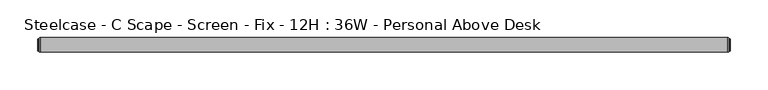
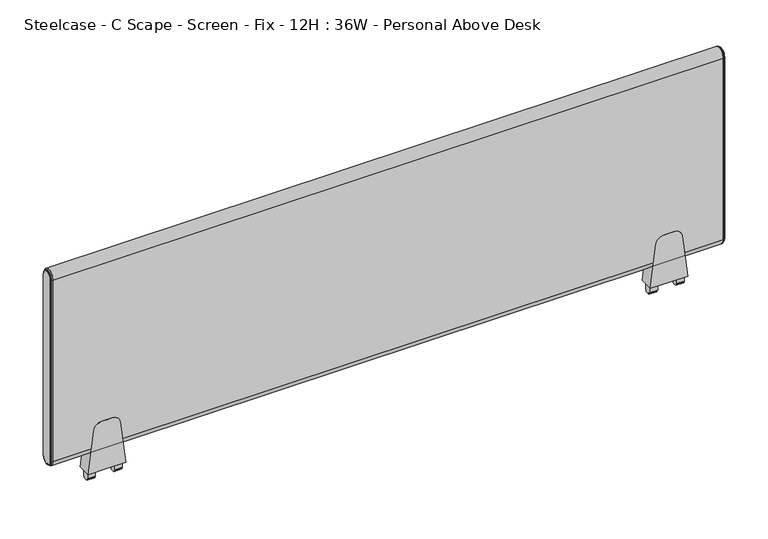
"""IFC4 building model written with IfcOpenShell, lengths in millimetres: furniture geometry, Steelcase - C Scape - Screen - Fix - 12H : 36W - Personal Above Desk."""

from ifc_helpers import new_model, si_unit, point, frame, frame_2d, origin, place, context, project, spatial, polyline, circle_curve, ellipse_curve, trimmed, segment, composite_curve, outline, extrude, source, transform, mapped, element, save
from ifc_brep_helpers import plane_surface, cylinder_surface, revolved_surface, advanced_brep


def steelcase_c_scape_screen_fix_12h_36w_personal_above_desk_3626d083(model_context):
    return source(origin(), model_context, "Body", "SolidModel", [
        extrude(outline(composite_curve([segment(polyline([(723.811112, 101.4730434), (784.1362421, 94.0661495)]), True, "CONTINUOUS"), segment(trimmed(circle_curve(frame_2d((782.8143718, 83.300233)), 10.8467645), [point((784.1362421, 94.0661495))], [point((793.6611362, 83.300233))], False, "CARTESIAN"), True, "CONTINUOUS"), segment(polyline([(793.6611362, 83.300233), (793.6611362, 76.2001674), (793.6611362, 69.1001018)]), True, "CONTINUOUS"), segment(trimmed(circle_curve(frame_2d((782.8143718, 69.1001018)), 10.8467645), [point((793.6611362, 69.1001018))], [point((784.1362421, 58.3341853))], False, "CARTESIAN"), True, "CONTINUOUS"), segment(polyline([(784.1362421, 58.3341853), (723.811112, 50.9272915), (723.811112, 76.2001674), (723.811112, 101.4730434)]), True, "CONTINUOUS")], self_intersect=False)), frame((0.0, -9.525, 0.0), z_axis=(0.0, 1.0, 0.0), x_axis=(0.0, 0.0, 1.0)), (0.0, 0.0, 1.0), 19.05),
        extrude(outline(polyline([(4.5465975, 723.811112), (4.5465975, 713.9051033), (4.0139265, 713.0186748), (2.9972008, 713.0186748), (2.9972008, 710.7834188), (0.0, 710.692), (-2.9972008, 710.7834188), (-2.9972008, 713.0186748), (-4.0139265, 713.0186748), (-4.5465975, 713.9051033), (-4.5465975, 723.811112), (0.0, 723.811112), (4.5465975, 723.811112)])), frame((88.9267162, 0.0, 0.0), z_axis=(1.0, 0.0, 0.0), x_axis=(0.0, 1.0, 0.0)), (0.0, 0.0, 1.0), 10.7813187),
        extrude(outline(polyline([(4.5465975, 723.811112), (4.5465975, 713.9051033), (4.0139265, 713.0186748), (2.9972008, 713.0186748), (2.9972008, 710.7834188), (0.0, 710.692), (-2.9972008, 710.7834188), (-2.9972008, 713.0186748), (-4.0139265, 713.0186748), (-4.5465975, 713.9051033), (-4.5465975, 723.811112), (0.0, 723.811112), (4.5465975, 723.811112)])), frame((52.6923, 0.0, 0.0), z_axis=(1.0, 0.0, 0.0), x_axis=(0.0, 1.0, 0.0)), (0.0, 0.0, 1.0), 10.7813187),
        extrude(outline(composite_curve([segment(polyline([(723.811112, 862.7107132), (784.1362421, 855.3038193)]), True, "CONTINUOUS"), segment(trimmed(circle_curve(frame_2d((782.8143718, 844.5379028)), 10.8467645), [point((784.1362421, 855.3038193))], [point((793.6611362, 844.5379028))], False, "CARTESIAN"), True, "CONTINUOUS"), segment(polyline([(793.6611362, 844.5379028), (793.6611362, 837.4378372), (793.6611362, 830.3377716)]), True, "CONTINUOUS"), segment(trimmed(circle_curve(frame_2d((782.8143718, 830.3377716)), 10.8467645), [point((793.6611362, 830.3377716))], [point((784.1362421, 819.5718551))], False, "CARTESIAN"), True, "CONTINUOUS"), segment(polyline([(784.1362421, 819.5718551), (723.811112, 812.1649612), (723.811112, 837.4378372), (723.811112, 862.7107132)]), True, "CONTINUOUS")], self_intersect=False)), frame((0.0, -9.525, 0.0), z_axis=(0.0, 1.0, 0.0), x_axis=(0.0, 0.0, 1.0)), (0.0, 0.0, 1.0), 19.05),
        extrude(outline(polyline([(4.5465975, 723.811112), (4.5465975, 713.9051033), (4.0139265, 713.0186748), (2.9972008, 713.0186748), (2.9972008, 710.7834188), (0.0, 710.692), (-2.9972008, 710.7834188), (-2.9972008, 713.0186748), (-4.0139265, 713.0186748), (-4.5465975, 713.9051033), (-4.5465975, 723.811112), (0.0, 723.811112), (4.5465975, 723.811112)])), frame((850.164386, 0.0, 0.0), z_axis=(1.0, 0.0, 0.0), x_axis=(0.0, 1.0, 0.0)), (0.0, 0.0, 1.0), 10.7813187),
        extrude(outline(polyline([(4.5465975, 723.811112), (4.5465975, 713.9051033), (4.0139265, 713.0186748), (2.9972008, 713.0186748), (2.9972008, 710.7834188), (0.0, 710.692), (-2.9972008, 710.7834188), (-2.9972008, 713.0186748), (-4.0139265, 713.0186748), (-4.5465975, 713.9051033), (-4.5465975, 723.811112), (0.0, 723.811112), (4.5465975, 723.811112)])), frame((813.9299698, 0.0, 0.0), z_axis=(1.0, 0.0, 0.0), x_axis=(0.0, 1.0, 0.0)), (0.0, 0.0, 1.0), 10.7813187),
        advanced_brep(
        [(910.8486613, -9.525, 1019.175), (910.8486613, 9.525, 1019.175), (910.8486613, 9.525, 758.825), (910.8486613, -9.525, 758.825), (913.6426613, 7.4929583, 1019.175), (913.6426613, -7.4929583, 1019.175), (913.6426613, -7.4929583, 758.825), (913.6426613, 7.4929583, 758.825), (913.1346545, -8.0009651, 1019.175), (913.1346545, 8.0009651, 1019.175), (911.8646613, 8.0009651, 1019.175), (911.8646613, -8.0009651, 1019.175), (911.8646613, -8.8204932, 1019.175), (911.8646613, 8.8204932, 1019.175), (911.8646613, -8.0009651, 758.825), (913.1346545, -8.0009651, 758.825), (911.8646613, -8.8204932, 758.825), (911.8646613, 8.0009651, 758.825), (913.1346545, 8.0009651, 758.825), (911.8646613, 8.8204932, 758.825)],
        [
            (0, 1, circle_curve(frame((910.8486613, 0.0, 1019.175), z_axis=(-1.0, 0.0, 0.0), x_axis=(0.0, 1.0, 0.0)), 9.525)),
            (1, 2),
            (2, 3, circle_curve(frame((910.8486613, 0.0, 758.825), z_axis=(-1.0, 0.0, 0.0), x_axis=(0.0, -1.0, 0.0)), 9.525)),
            (3, 0),
            (4, 5, circle_curve(frame((913.6426613, 0.0, 1019.175), z_axis=(1.0, 0.0, 0.0), x_axis=(0.0, 1.0, 0.0)), 7.4929583)),
            (5, 6),
            (6, 7, circle_curve(frame((913.6426613, 0.0, 758.825), z_axis=(1.0, 0.0, 0.0), x_axis=(0.0, -1.0, 0.0)), 7.4929583)),
            (7, 4),
            (8, 9, circle_curve(frame((913.1346545, 0.0, 1019.175), z_axis=(-1.0, 0.0, 0.0), x_axis=(0.0, 1.0, 0.0)), 8.0009651)),
            (9, 10),
            (10, 11, circle_curve(frame((911.8646613, 0.0, 1019.175), z_axis=(1.0, 0.0, 0.0), x_axis=(0.0, 1.0, 0.0)), 8.0009651)),
            (11, 8),
            (8, 5, circle_curve(frame((913.1346545, -7.4929583, 1019.175), z_axis=(0.0, 0.0, 1.0), x_axis=(0.0, -1.0, 0.0)), 0.5080068)),
            (4, 9, circle_curve(frame((913.1346545, 7.4929583, 1019.175), z_axis=(0.0, 0.0, 1.0), x_axis=(0.0, 1.0, 0.0)), 0.5080068)),
            (12, 13, circle_curve(frame((911.8646613, 0.0, 1019.175), z_axis=(-1.0, 0.0, 0.0), x_axis=(0.0, 1.0, 0.0)), 8.8204932)),
            (13, 1, circle_curve(frame((910.7806211, 8.3420139, 1019.175), z_axis=(0.0, 0.0, 1.0), x_axis=(0.0, 1.0, 0.0)), 1.1849411)),
            (0, 12, circle_curve(frame((910.7806211, -8.3420139, 1019.175), z_axis=(0.0, 0.0, 1.0), x_axis=(0.0, -1.0, 0.0)), 1.1849411)),
            (11, 14),
            (14, 15),
            (15, 8),
            (15, 6, circle_curve(frame((913.1346545, -7.4929583, 758.825), z_axis=(0.0, 0.0, 1.0), x_axis=(0.0, -1.0, 0.0)), 0.5080068)),
            (3, 16, circle_curve(frame((910.7806211, -8.3420139, 758.825), z_axis=(0.0, 0.0, 1.0), x_axis=(0.0, -1.0, 0.0)), 1.1849411)),
            (16, 12),
            (14, 17, circle_curve(frame((911.8646613, 0.0, 758.825), z_axis=(1.0, 0.0, 0.0), x_axis=(0.0, -1.0, 0.0)), 8.0009651)),
            (17, 18),
            (18, 15, circle_curve(frame((913.1346545, 0.0, 758.825), z_axis=(-1.0, 0.0, 0.0), x_axis=(0.0, -1.0, 0.0)), 8.0009651)),
            (18, 7, circle_curve(frame((913.1346545, 7.4929583, 758.825), z_axis=(0.0, 0.0, -1.0), x_axis=(0.0, 1.0, 0.0)), 0.5080068)),
            (2, 19, circle_curve(frame((910.7806211, 8.3420139, 758.825), z_axis=(0.0, 0.0, -1.0), x_axis=(0.0, 1.0, 0.0)), 1.1849411)),
            (19, 16, circle_curve(frame((911.8646613, 0.0, 758.825), z_axis=(-1.0, 0.0, 0.0), x_axis=(0.0, -1.0, 0.0)), 8.8204932)),
            (9, 18),
            (17, 10),
            (13, 19),
        ],
        [
            plane_surface(frame((910.8486613, -6.3509705, 1019.175), z_axis=(-1.0, 0.0, 0.0), x_axis=(0.0, 0.0, 1.0))),
            plane_surface(frame((913.6426613, -6.3509705, 1019.175), z_axis=(1.0, 0.0, 0.0), x_axis=(0.0, 0.0, -1.0))),
            cylinder_surface(frame((910.8486613, 0.0, 1019.175), z_axis=(1.0, 0.0, 0.0), x_axis=(0.0, 1.0, 0.0)), 8.0009651),
            revolved_surface(trimmed(ellipse_curve(frame((913.1346545, 7.4929583, 1019.175), z_axis=(0.0, 0.0, -1.0), x_axis=(0.0, 1.0, 0.0)), 0.5080068, 0.5080068), [point((913.1346545, 8.0009651, 1019.175))], [point((913.6426613, 7.4929583, 1019.175))], True, "CARTESIAN"), (910.8486613, 0.0, 1019.175), (1.0, 0.0, 0.0)),
            revolved_surface(trimmed(ellipse_curve(frame((910.7806211, 8.3420139, 1019.175), z_axis=(0.0, 0.0, -1.0), x_axis=(0.0, 1.0, 0.0)), 1.1849411, 1.1849411), [point((910.8486613, 9.525, 1019.175))], [point((911.8646613, 8.8204932, 1019.175))], True, "CARTESIAN"), (910.8486613, 0.0, 1019.175), (1.0, 0.0, 0.0)),
            plane_surface(frame((911.8646613, -8.0009651, 1019.175), z_axis=(0.0, -1.0, 0.0), x_axis=(0.0, 0.0, -1.0))),
            cylinder_surface(frame((913.1346545, -7.4929583, 1019.175), z_axis=(0.0, 0.0, 1.0), x_axis=(0.0, -1.0, 0.0)), 0.5080068),
            cylinder_surface(frame((910.7806211, -8.3420139, 1019.175), z_axis=(0.0, 0.0, 1.0), x_axis=(0.0, -1.0, 0.0)), 1.1849411),
            cylinder_surface(frame((910.8486613, 0.0, 758.825), z_axis=(1.0, 0.0, 0.0), x_axis=(0.0, -1.0, 0.0)), 8.0009651),
            revolved_surface(trimmed(ellipse_curve(frame((913.1346545, -7.4929583, 758.825), z_axis=(0.0, 0.0, 1.0), x_axis=(0.0, -1.0, 0.0)), 0.5080068, 0.5080068), [point((913.1346545, -8.0009651, 758.825))], [point((913.6426613, -7.4929583, 758.825))], True, "CARTESIAN"), (910.8486613, 0.0, 758.825), (1.0, 0.0, 0.0)),
            revolved_surface(trimmed(ellipse_curve(frame((910.7806211, -8.3420139, 758.825), z_axis=(0.0, 0.0, 1.0), x_axis=(0.0, -1.0, 0.0)), 1.1849411, 1.1849411), [point((910.8486613, -9.525, 758.825))], [point((911.8646613, -8.8204932, 758.825))], True, "CARTESIAN"), (910.8486613, 0.0, 758.825), (1.0, 0.0, 0.0)),
            plane_surface(frame((911.8646613, 8.0009651, 758.825), z_axis=(0.0, 1.0, 0.0), x_axis=(0.0, 0.0, 1.0))),
            cylinder_surface(frame((913.1346545, 7.4929583, 758.825), z_axis=(0.0, 0.0, -1.0), x_axis=(0.0, 1.0, 0.0)), 0.5080068),
            cylinder_surface(frame((910.7806211, 8.3420139, 758.825), z_axis=(0.0, 0.0, -1.0), x_axis=(0.0, 1.0, 0.0)), 1.1849411),
            plane_surface(frame((911.8646613, 8.8204932, 758.825), z_axis=(1.0, 0.0, 0.0), x_axis=(0.0, 0.0, 1.0))),
        ],
        [
            (0, [[1, 2, 3, 4]]),
            (1, [[5, 6, 7, 8]]),
            (2, [[9, 10, 11, 12]]),
            (3, [[-9, 13, -5, 14]]),
            (4, [[15, 16, -1, 17]]),
            (5, [[-12, 18, 19, 20]]),
            (6, [[-13, -20, 21, -6]]),
            (7, [[-17, -4, 22, 23]]),
            (8, [[-19, 24, 25, 26]]),
            (9, [[-21, -26, 27, -7]]),
            (10, [[-22, -3, 28, 29]]),
            (11, [[-10, 30, -25, 31]]),
            (12, [[-14, -8, -27, -30]]),
            (13, [[-16, 32, -28, -2]]),
            (14, [[-15, -23, -29, -32], [-11, -31, -24, -18]]),
        ],
    ),
        advanced_brep(
        [(2.7940155, 9.525, 1019.175), (2.7940155, -9.525, 1019.175), (2.7940155, -9.525, 758.825), (2.7940155, 9.525, 758.825), (0.0, -7.4929583, 1019.175), (0.0, 7.4929583, 1019.175), (0.0, 7.4929583, 758.825), (0.0, -7.4929583, 758.825), (1.778, 8.8204932, 1019.175), (1.778, -8.8204932, 1019.175), (0.5080068, -8.0009651, 1019.175), (0.5080068, 8.0009651, 1019.175), (1.778, -8.0009651, 1019.175), (1.778, 8.0009651, 1019.175), (1.778, -8.8204932, 758.825), (0.5080068, -8.0009651, 758.825), (1.778, -8.0009651, 758.825), (1.778, 8.8204932, 758.825), (0.5080068, 8.0009651, 758.825), (1.778, 8.0009651, 758.825)],
        [
            (0, 1, circle_curve(frame((2.7940155, 0.0, 1019.175), z_axis=(1.0, 0.0, 0.0), x_axis=(0.0, 1.0, 0.0)), 9.525)),
            (1, 2),
            (2, 3, circle_curve(frame((2.7940155, 0.0, 758.825), z_axis=(1.0, 0.0, 0.0), x_axis=(0.0, -1.0, 0.0)), 9.525)),
            (3, 0),
            (4, 5, circle_curve(frame((0.0, 0.0, 1019.175), z_axis=(-1.0, 0.0, 0.0), x_axis=(0.0, 1.0, 0.0)), 7.4929583)),
            (5, 6),
            (6, 7, circle_curve(frame((0.0, 0.0, 758.825), z_axis=(-1.0, 0.0, 0.0), x_axis=(0.0, -1.0, 0.0)), 7.4929583)),
            (7, 4),
            (0, 8, circle_curve(frame((2.8620402, 8.3420139, 1019.175), z_axis=(0.0, 0.0, 1.0), x_axis=(0.0, -1.0, 0.0)), 1.1849411)),
            (8, 9, circle_curve(frame((1.778, 0.0, 1019.175), z_axis=(1.0, 0.0, 0.0), x_axis=(0.0, 1.0, 0.0)), 8.8204932)),
            (9, 1, circle_curve(frame((2.8620402, -8.3420139, 1019.175), z_axis=(0.0, 0.0, 1.0), x_axis=(0.0, 1.0, 0.0)), 1.1849411)),
            (10, 11, circle_curve(frame((0.5080068, 0.0, 1019.175), z_axis=(-1.0, 0.0, 0.0), x_axis=(0.0, 1.0, 0.0)), 8.0009651)),
            (11, 5, circle_curve(frame((0.5080068, 7.4929583, 1019.175), z_axis=(0.0, 0.0, 1.0), x_axis=(0.0, -1.0, 0.0)), 0.5080068)),
            (4, 10, circle_curve(frame((0.5080068, -7.4929583, 1019.175), z_axis=(0.0, 0.0, 1.0), x_axis=(0.0, 1.0, 0.0)), 0.5080068)),
            (10, 12),
            (12, 13, circle_curve(frame((1.778, 0.0, 1019.175), z_axis=(-1.0, 0.0, 0.0), x_axis=(0.0, 1.0, 0.0)), 8.0009651)),
            (13, 11),
            (9, 14),
            (14, 2, circle_curve(frame((2.8620402, -8.3420139, 758.825), z_axis=(0.0, 0.0, 1.0), x_axis=(0.0, 1.0, 0.0)), 1.1849411)),
            (7, 15, circle_curve(frame((0.5080068, -7.4929583, 758.825), z_axis=(0.0, 0.0, 1.0), x_axis=(0.0, 1.0, 0.0)), 0.5080068)),
            (15, 10),
            (15, 16),
            (16, 12),
            (14, 17, circle_curve(frame((1.778, 0.0, 758.825), z_axis=(1.0, 0.0, 0.0), x_axis=(0.0, -1.0, 0.0)), 8.8204932)),
            (17, 3, circle_curve(frame((2.8620402, 8.3420139, 758.825), z_axis=(0.0, 0.0, -1.0), x_axis=(0.0, -1.0, 0.0)), 1.1849411)),
            (6, 18, circle_curve(frame((0.5080068, 7.4929583, 758.825), z_axis=(0.0, 0.0, -1.0), x_axis=(0.0, -1.0, 0.0)), 0.5080068)),
            (18, 15, circle_curve(frame((0.5080068, 0.0, 758.825), z_axis=(-1.0, 0.0, 0.0), x_axis=(0.0, -1.0, 0.0)), 8.0009651)),
            (18, 19),
            (19, 16, circle_curve(frame((1.778, 0.0, 758.825), z_axis=(-1.0, 0.0, 0.0), x_axis=(0.0, -1.0, 0.0)), 8.0009651)),
            (8, 17),
            (19, 13),
            (11, 18),
        ],
        [
            plane_surface(frame((2.7940155, -6.3509705, 1019.175), z_axis=(1.0, 0.0, 0.0), x_axis=(0.0, 0.0, -1.0))),
            plane_surface(frame((0.0, -6.3509705, 1019.175), z_axis=(-1.0, 0.0, 0.0), x_axis=(0.0, 0.0, 1.0))),
            revolved_surface(trimmed(ellipse_curve(frame((2.8620402, 8.3420139, 1019.175), z_axis=(0.0, 0.0, -1.0), x_axis=(0.0, -1.0, 0.0)), 1.1849411, 1.1849411), [point((1.778, 8.8204932, 1019.175))], [point((2.794, 9.525, 1019.175))], True, "CARTESIAN"), (2.794, 0.0, 1019.175), (1.0, 0.0, 0.0)),
            revolved_surface(trimmed(ellipse_curve(frame((0.5080068, 7.4929583, 1019.175), z_axis=(0.0, 0.0, -1.0), x_axis=(0.0, -1.0, 0.0)), 0.5080068, 0.5080068), [point((0.0, 7.4929583, 1019.175))], [point((0.5080068, 8.0009651, 1019.175))], True, "CARTESIAN"), (2.794, 0.0, 1019.175), (1.0, 0.0, 0.0)),
            cylinder_surface(frame((2.794, 0.0, 1019.175), z_axis=(1.0, 0.0, 0.0), x_axis=(0.0, 1.0, 0.0)), 8.0009651),
            cylinder_surface(frame((2.8620402, -8.3420139, 1019.175), z_axis=(0.0, 0.0, 1.0), x_axis=(0.0, 1.0, 0.0)), 1.1849411),
            cylinder_surface(frame((0.5080068, -7.4929583, 1019.175), z_axis=(0.0, 0.0, 1.0), x_axis=(0.0, 1.0, 0.0)), 0.5080068),
            plane_surface(frame((0.5080068, -8.0009651, 1019.175), z_axis=(0.0, -1.0, 0.0), x_axis=(0.0, 0.0, -1.0))),
            revolved_surface(trimmed(ellipse_curve(frame((2.8620402, -8.3420139, 758.825), z_axis=(0.0, 0.0, 1.0), x_axis=(0.0, 1.0, 0.0)), 1.1849411, 1.1849411), [point((1.778, -8.8204932, 758.825))], [point((2.794, -9.525, 758.825))], True, "CARTESIAN"), (2.794, 0.0, 758.825), (1.0, 0.0, 0.0)),
            revolved_surface(trimmed(ellipse_curve(frame((0.5080068, -7.4929583, 758.825), z_axis=(0.0, 0.0, 1.0), x_axis=(0.0, 1.0, 0.0)), 0.5080068, 0.5080068), [point((0.0, -7.4929583, 758.825))], [point((0.5080068, -8.0009651, 758.825))], True, "CARTESIAN"), (2.794, 0.0, 758.825), (1.0, 0.0, 0.0)),
            cylinder_surface(frame((2.794, 0.0, 758.825), z_axis=(1.0, 0.0, 0.0), x_axis=(0.0, -1.0, 0.0)), 8.0009651),
            plane_surface(frame((1.778, 8.0009651, 758.825), z_axis=(-1.0, 0.0, 0.0), x_axis=(0.0, 0.0, 1.0))),
            cylinder_surface(frame((2.8620402, 8.3420139, 758.825), z_axis=(0.0, 0.0, -1.0), x_axis=(0.0, -1.0, 0.0)), 1.1849411),
            cylinder_surface(frame((0.5080068, 7.4929583, 758.825), z_axis=(0.0, 0.0, -1.0), x_axis=(0.0, -1.0, 0.0)), 0.5080068),
            plane_surface(frame((0.5080068, 8.0009651, 758.825), z_axis=(0.0, 1.0, 0.0), x_axis=(0.0, 0.0, 1.0))),
        ],
        [
            (0, [[1, 2, 3, 4]]),
            (1, [[5, 6, 7, 8]]),
            (2, [[-1, 9, 10, 11]]),
            (3, [[12, 13, -5, 14]]),
            (4, [[-12, 15, 16, 17]]),
            (5, [[-11, 18, 19, -2]]),
            (6, [[-14, -8, 20, 21]]),
            (7, [[-15, -21, 22, 23]]),
            (8, [[-19, 24, 25, -3]]),
            (9, [[-20, -7, 26, 27]]),
            (10, [[-22, -27, 28, 29]]),
            (11, [[-10, 30, -24, -18], [-16, -23, -29, 31]]),
            (12, [[-9, -4, -25, -30]]),
            (13, [[-13, 32, -26, -6]]),
            (14, [[-17, -31, -28, -32]]),
        ],
    ),
        extrude(outline(composite_curve([segment(trimmed(circle_curve(frame_2d((0.0, 1019.175)), 9.525), [point((-9.525, 1019.175))], [point((9.525, 1019.175))], False, "CARTESIAN"), True, "CONTINUOUS"), segment(polyline([(9.525, 1019.175), (9.525, 758.825)]), True, "CONTINUOUS"), segment(trimmed(circle_curve(frame_2d((0.0, 758.825)), 9.525), [point((9.525, 758.825))], [point((-9.525, 758.825))], False, "CARTESIAN"), True, "CONTINUOUS"), segment(polyline([(-9.525, 758.825), (-9.525, 1019.175)]), True, "CONTINUOUS")], self_intersect=False)), frame((2.794, 0.0, 0.0), z_axis=(1.0, 0.0, 0.0), x_axis=(0.0, 1.0, 0.0)), (0.0, 0.0, 1.0), 908.0546613),
    ])


if __name__ == "__main__":
    model = new_model("IFC4")
    model_context = context("Model", 3, world=origin())
    ifc_project = project(units=[si_unit("LENGTHUNIT", "METRE", prefix="MILLI")], contexts=[model_context])
    site = spatial("IfcSite", under=ifc_project)
    building = spatial("IfcBuilding", under=site)
    placement = place(None, origin())
    steelcase_c_scape_screen_fix_12h_36w_personal_above_desk_shape = steelcase_c_scape_screen_fix_12h_36w_personal_above_desk_3626d083(model_context)
    element("IfcFurniture", 1, ObjectType="Steelcase - C Scape - Screen - Fix - 12H : 36W - Personal Above Desk", at=placement, inside=building, context=model_context, shape_type="MappedRepresentation", body=[
        mapped(steelcase_c_scape_screen_fix_12h_36w_personal_above_desk_shape, transform((0.0, 0.0, 0.0), x_axis=(1.0, 0.0, 0.0), y_axis=(0.0, 1.0, 0.0), z_axis=(0.0, 0.0, 1.0))),
    ])
    save(model, "model.ifc")
